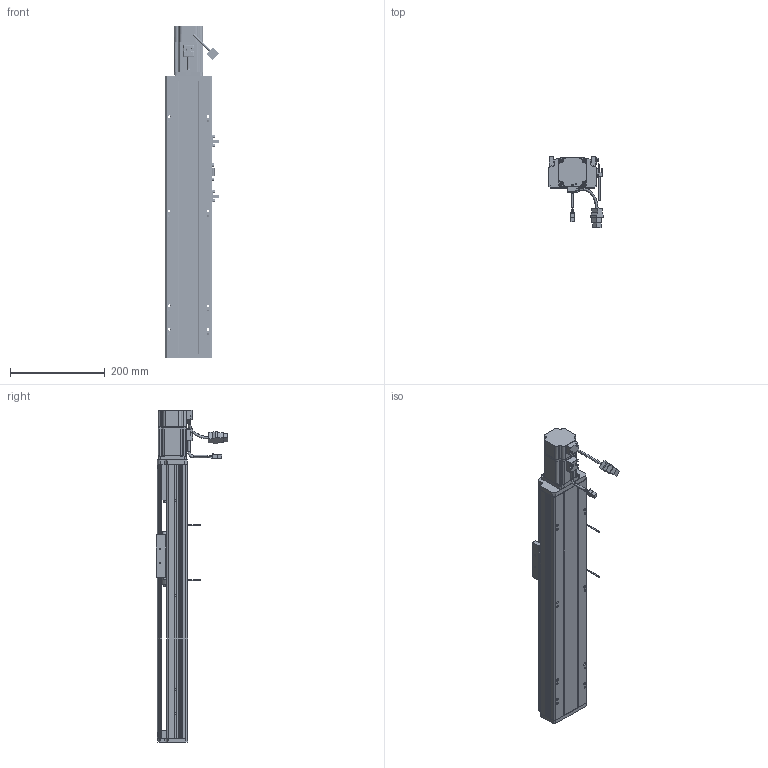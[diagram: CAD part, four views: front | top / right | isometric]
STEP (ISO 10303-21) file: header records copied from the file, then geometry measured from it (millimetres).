
FILE_DESCRIPTION (( 'STEP AP214' ), '1' );
FILE_NAME ('CTH10-350.STEP', '2019-11-18T08:31:30', ( '微软用户' ), ( '微软中国' ), 'SwSTEP 2.0', 'SolidWorks 2017', '' );
FILE_SCHEMA (( 'AUTOMOTIVE_DESIGN' ));
Length unit declared in the file: millimetre
Products named in the file (34): CTH10-350; CTH10-底座_默认<按加工>; CTH10-移动座_默认<按加工>; CTH10-蹟簽蟀諉啣; CTH10-盓傅釱; CTH10-傷啣; CTH10-侜督萇儂啣; SFH1605-288; SFH1605; CTH10-盖板_默认<按加工>; 怢湛200W侜督萇儂ECMA-CX0602ES; CTH10-粣創釱; BEARING_BaseModel20190604090351; 7001-DF; 粣創揤啣; COL12B-粣遠; 坶踡蹟譫; M4-L8囀鞠褒蹟佪; M3-L10囀鞠褒蹟佪; CTH10粣創釱蚾饜极; M5-L20囀鞠褒蹟佪; 遣喳蝶15x12x8; 6000Z粣創; M4-L6半圆头内六角螺丝; EE-SX672; M3-L8囀鞠褒蹟佪; 100耀郪-覜茼んえ; MGN12C; MGN12C-R1; MGN12C-2R420-Z0CHC; 噩砃M3-L10囀鞠褒蹟佪; 噩砃MGN12C; 噩砃MGN12C-R1; 噩砃MGN12C-2R420-Z0CHC
Assembly tree (100 placements, depth 4):
  CTH10-350
    CTH10-底座_默认<按加工>
    CTH10-移动座_默认<按加工>
    CTH10-蹟簽蟀諉啣
    CTH10-盓傅釱
    CTH10-傷啣
    CTH10-侜督萇儂啣
    SFH1605-288
    SFH1605
    CTH10-盖板_默认<按加工>
    怢湛200W侜督萇儂ECMA-CX0602ES
    CTH10粣創釱蚾饜极
      CTH10-粣創釱
      7001-DF
        BEARING_BaseModel20190604090351  x2
      粣創揤啣
      COL12B-粣遠  x2
      坶踡蹟譫
      M4-L8囀鞠褒蹟佪  x4
      M3-L10囀鞠褒蹟佪  x6
    M3-L10囀鞠褒蹟佪  x19
    M5-L20囀鞠褒蹟佪  x4
    遣喳蝶15x12x8  x3
    6000Z粣創
    M4-L6半圆头内六角螺丝  x4
    M4-L8囀鞠褒蹟佪  x8
    EE-SX672  x2
    M3-L8囀鞠褒蹟佪  x4
    100耀郪-覜茼んえ
    MGN12C-2R420-Z0CHC
      MGN12C
      MGN12C-R1  x2
      M3-L10囀鞠褒蹟佪  x8
    噩砃M3-L10囀鞠褒蹟佪
    噩砃MGN12C-2R420-Z0CHC
      噩砃MGN12C
      噩砃MGN12C-R1  x2
      噩砃M3-L10囀鞠褒蹟佪  x8
Bounding box: 114.24 x 151.37 x 702 mm (x, y, z)
Volume: 1962766.9 mm3; surface area: 701316.3 mm2
Topology: 96 solids, 105 shells, 4461 faces, 11182 edges, 6960 vertices
Faces by surface type: plane 2294, cylinder 1280, cone 601, bspline 241, torus 33, sphere 12
Entity records: 91012 total; most frequent: CARTESIAN_POINT 27866, ORIENTED_EDGE 12868, DIRECTION 12223, EDGE_CURVE 6434, AXIS2_PLACEMENT_3D 4298, VERTEX_POINT 4174, LINE 3627, VECTOR 3627
